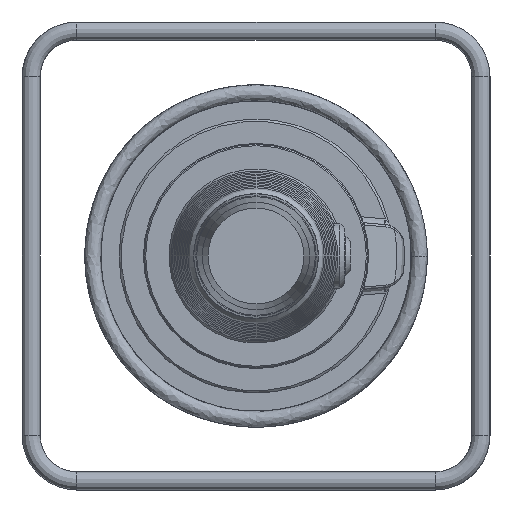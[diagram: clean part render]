
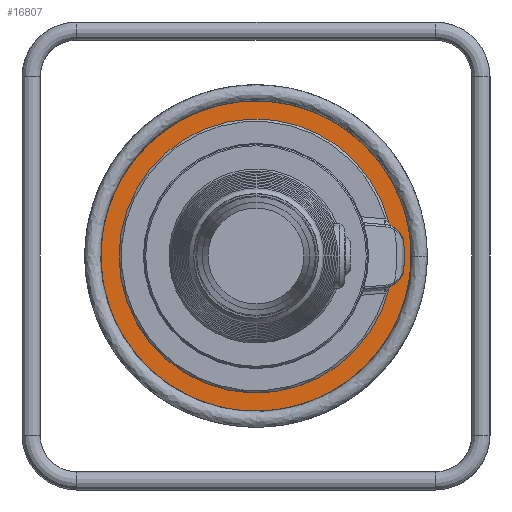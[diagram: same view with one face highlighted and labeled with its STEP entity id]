
A CAD part, left-side view. The second image highlights one B-rep face of the part: STEP entity #16807.
In plain terms, the highlighted planar face has unit normal (-1, 0, 0).
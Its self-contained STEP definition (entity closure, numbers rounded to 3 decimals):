
#2565=PLANE('',#17886);
#3771=FACE_BOUND('',#5940,.T.);
#4747=FACE_OUTER_BOUND('',#5939,.T.);
#5939=EDGE_LOOP('',(#15100));
#5940=EDGE_LOOP('',(#15101,#15102,#15103,#15104,#15105,#15106,#15107,#15108));
#6443=CIRCLE('',#17618,5.);
#6458=CIRCLE('',#17639,5.);
#6460=CIRCLE('',#17643,120.);
#6465=CIRCLE('',#17652,2.);
#6473=CIRCLE('',#17668,130.);
#6479=CIRCLE('',#17677,2.);
#6494=CIRCLE('',#17705,19.);
#6495=CIRCLE('',#17709,19.);
#6592=CIRCLE('',#17887,143.);
#8032=VERTEX_POINT('',#41051);
#8033=VERTEX_POINT('',#41053);
#8044=VERTEX_POINT('',#41210);
#8045=VERTEX_POINT('',#41211);
#8050=VERTEX_POINT('',#41231);
#8051=VERTEX_POINT('',#41232);
#8074=VERTEX_POINT('',#41603);
#8081=VERTEX_POINT('',#41777);
#8188=VERTEX_POINT('',#42924);
#10285=EDGE_CURVE('',#8033,#8032,#6443,.T.);
#10307=EDGE_CURVE('',#8044,#8045,#6458,.T.);
#10311=EDGE_CURVE('',#8045,#8033,#6460,.T.);
#10316=EDGE_CURVE('',#8050,#8051,#6465,.T.);
#10349=EDGE_CURVE('',#8074,#8050,#6473,.T.);
#10362=EDGE_CURVE('',#8081,#8074,#6479,.T.);
#10397=EDGE_CURVE('',#8032,#8081,#6494,.T.);
#10400=EDGE_CURVE('',#8051,#8044,#6495,.T.);
#10521=EDGE_CURVE('',#8188,#8188,#6592,.T.);
#15100=ORIENTED_EDGE('',*,*,#10521,.F.);
#15101=ORIENTED_EDGE('',*,*,#10316,.T.);
#15102=ORIENTED_EDGE('',*,*,#10400,.T.);
#15103=ORIENTED_EDGE('',*,*,#10307,.T.);
#15104=ORIENTED_EDGE('',*,*,#10311,.T.);
#15105=ORIENTED_EDGE('',*,*,#10285,.T.);
#15106=ORIENTED_EDGE('',*,*,#10397,.T.);
#15107=ORIENTED_EDGE('',*,*,#10362,.T.);
#15108=ORIENTED_EDGE('',*,*,#10349,.T.);
#16807=ADVANCED_FACE('',(#4747,#3771),#2565,.F.);
#17618=AXIS2_PLACEMENT_3D('',#41054,#20334,#20335);
#17639=AXIS2_PLACEMENT_3D('',#41212,#20379,#20380);
#17643=AXIS2_PLACEMENT_3D('',#41218,#20389,#20390);
#17652=AXIS2_PLACEMENT_3D('',#41233,#20407,#20408);
#17668=AXIS2_PLACEMENT_3D('',#41604,#20444,#20445);
#17677=AXIS2_PLACEMENT_3D('',#41778,#20464,#20465);
#17705=AXIS2_PLACEMENT_3D('',#42121,#20524,#20525);
#17709=AXIS2_PLACEMENT_3D('',#42127,#20534,#20535);
#17886=AXIS2_PLACEMENT_3D('',#42923,#20889,#20890);
#17887=AXIS2_PLACEMENT_3D('',#42925,#20891,#20892);
#20334=DIRECTION('center_axis',(-1.,0.,0.));
#20335=DIRECTION('ref_axis',(0.,0.773,-0.634));
#20379=DIRECTION('center_axis',(-1.,0.,0.));
#20380=DIRECTION('ref_axis',(0.,0.773,0.634));
#20389=DIRECTION('center_axis',(1.,0.,0.));
#20390=DIRECTION('ref_axis',(0.,1.,0.));
#20407=DIRECTION('center_axis',(1.,0.,0.));
#20408=DIRECTION('ref_axis',(0.,-0.981,-0.196));
#20444=DIRECTION('center_axis',(1.,0.,0.));
#20445=DIRECTION('ref_axis',(0.,-1.,0.));
#20464=DIRECTION('center_axis',(1.,0.,0.));
#20465=DIRECTION('ref_axis',(0.,-0.981,0.196));
#20524=DIRECTION('center_axis',(1.,0.,0.));
#20525=DIRECTION('ref_axis',(0.,-0.737,0.676));
#20534=DIRECTION('center_axis',(1.,0.,0.));
#20535=DIRECTION('ref_axis',(0.,-0.737,-0.676));
#20889=DIRECTION('center_axis',(1.,0.,0.));
#20890=DIRECTION('ref_axis',(0.,0.,-1.));
#20891=DIRECTION('center_axis',(1.,0.,0.));
#20892=DIRECTION('ref_axis',(0.,0.,
-1.));
#41051=CARTESIAN_POINT('',(-4.471,-46.429,25.759));
#41053=CARTESIAN_POINT('',(-4.471,-43.719,29.067));
#41054=CARTESIAN_POINT('Origin',(-4.471,-48.57,30.278));
#41210=CARTESIAN_POINT('',(-4.471,-46.429,-25.759));
#41211=CARTESIAN_POINT('',(-4.471,-43.719,-29.067));
#41212=CARTESIAN_POINT('Origin',(-4.471,-48.57,-30.278));
#41218=CARTESIAN_POINT('Origin',(-4.471,72.707,0.));
#41231=CARTESIAN_POINT('',(-4.471,-56.574,-13.655));
#41232=CARTESIAN_POINT('',(-4.471,-56.501,-14.016));
#41233=CARTESIAN_POINT('Origin',(-4.471,-54.585,-13.445));
#41603=CARTESIAN_POINT('',(-4.471,-56.574,13.655));
#41604=CARTESIAN_POINT('Origin',(-4.471,72.707,0.));
#41777=CARTESIAN_POINT('',(-4.471,-56.501,14.016));
#41778=CARTESIAN_POINT('Origin',(-4.471,-54.585,13.445));
#42121=CARTESIAN_POINT('Origin',(-4.471,-38.293,8.59));
#42127=CARTESIAN_POINT('Origin',(-4.471,-38.293,-8.59));
#42923=CARTESIAN_POINT('Origin',(-4.471,72.707,0.));
#42924=CARTESIAN_POINT('',(-4.471,72.707,143.));
#42925=CARTESIAN_POINT('Origin',(-4.471,72.707,0.));
